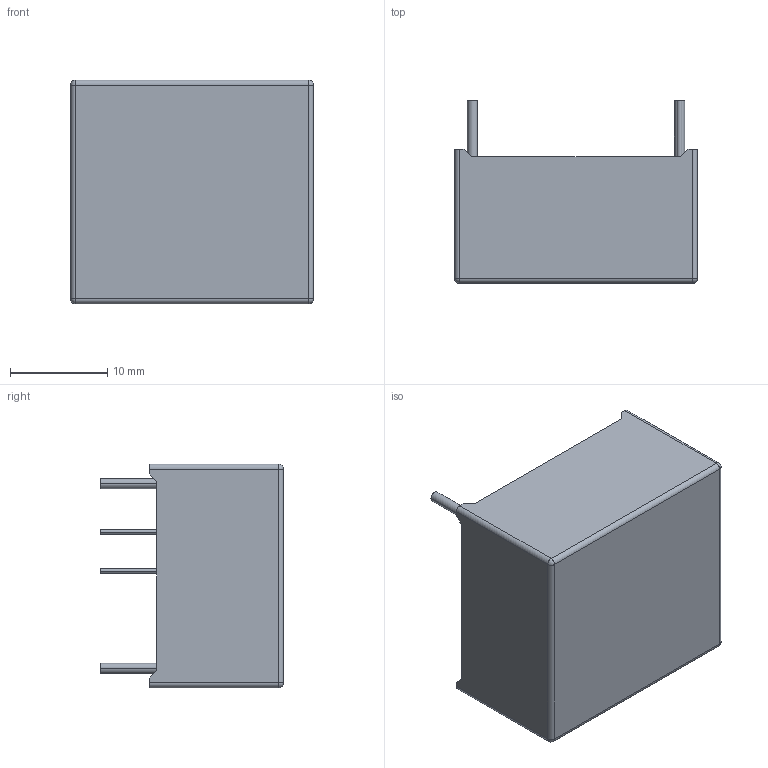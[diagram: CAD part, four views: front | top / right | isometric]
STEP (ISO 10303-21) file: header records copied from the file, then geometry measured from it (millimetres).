
FILE_DESCRIPTION((''),'2;1');
FILE_NAME('TFMOV20S621L-IT-5-001','2020-08-11T',('SET-01114'),(''),'PRO/ENGINEER BY PARAMETRIC TECHNOLOGY CORPORATION, 2012310','PRO/ENGINEER BY PARAMETRIC TECHNOLOGY CORPORATION, 2012310','');
FILE_SCHEMA(('CONFIG_CONTROL_DESIGN','SHAPE_APPEARANCE_LAYERS_GROUPS'));
Length unit declared in the file: millimetre
Products named in the file (1): TFMOV20S621L-IT-5-001
Bounding box: 25 x 18.8 x 23 mm (x, y, z)
Volume: 2189.9 mm3; surface area: 4371.9 mm2
Topology: 1 solids, 2 shells, 108 faces, 280 edges, 172 vertices
Faces by surface type: plane 60, cylinder 32, sphere 16
Entity records: 3276 total; most frequent: CARTESIAN_POINT 601, DIRECTION 560, ORIENTED_EDGE 528, EDGE_CURVE 264, AXIS2_PLACEMENT_3D 192, VECTOR 176, LINE 176, VERTEX_POINT 172
